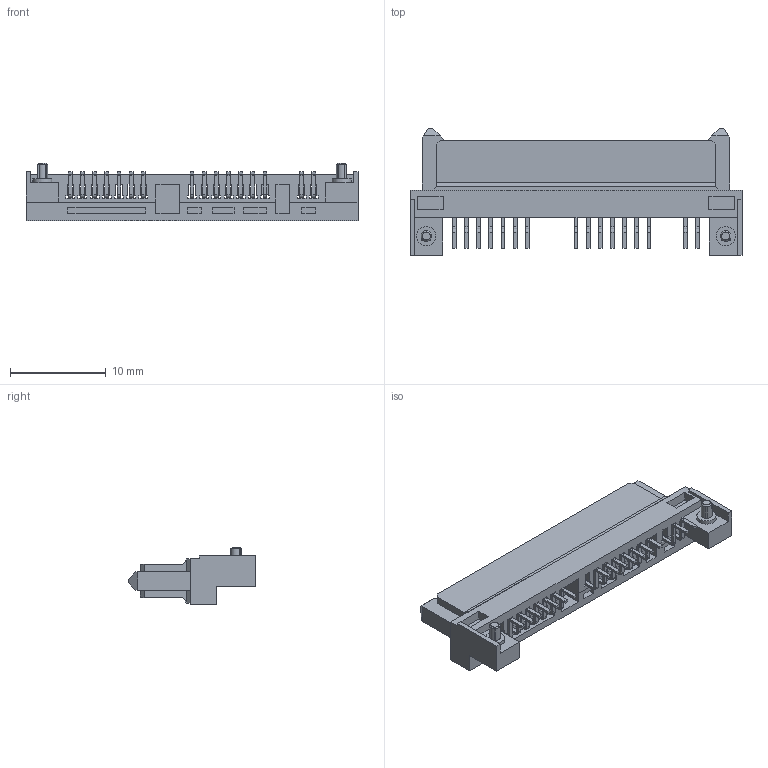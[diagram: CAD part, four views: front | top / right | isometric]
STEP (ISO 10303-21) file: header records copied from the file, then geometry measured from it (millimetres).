
FILE_DESCRIPTION((''),'2;1');
FILE_NAME('783200001','2009-11-05T',('pnb'),(''),'PRO/ENGINEER BY PARAMETRIC TECHNOLOGY CORPORATION, 2003451','PRO/ENGINEER BY PARAMETRIC TECHNOLOGY CORPORATION, 2003451','');
FILE_SCHEMA(('CONFIG_CONTROL_DESIGN'));
Length unit declared in the file: millimetre
Products named in the file (1): 783200001
Bounding box: 34.65 x 13.2 x 6.05 mm (x, y, z)
Volume: 788.1 mm3; surface area: 2095.1 mm2
Topology: 1 solids, 1 shells, 723 faces, 2187 edges, 1464 vertices
Faces by surface type: plane 543, cylinder 176, cone 4
Entity records: 24304 total; most frequent: CARTESIAN_POINT 4303, ORIENTED_EDGE 4234, DIRECTION 4005, EDGE_CURVE 2117, VECTOR 1817, LINE 1817, VERTEX_POINT 1392, AXIS2_PLACEMENT_3D 1094
